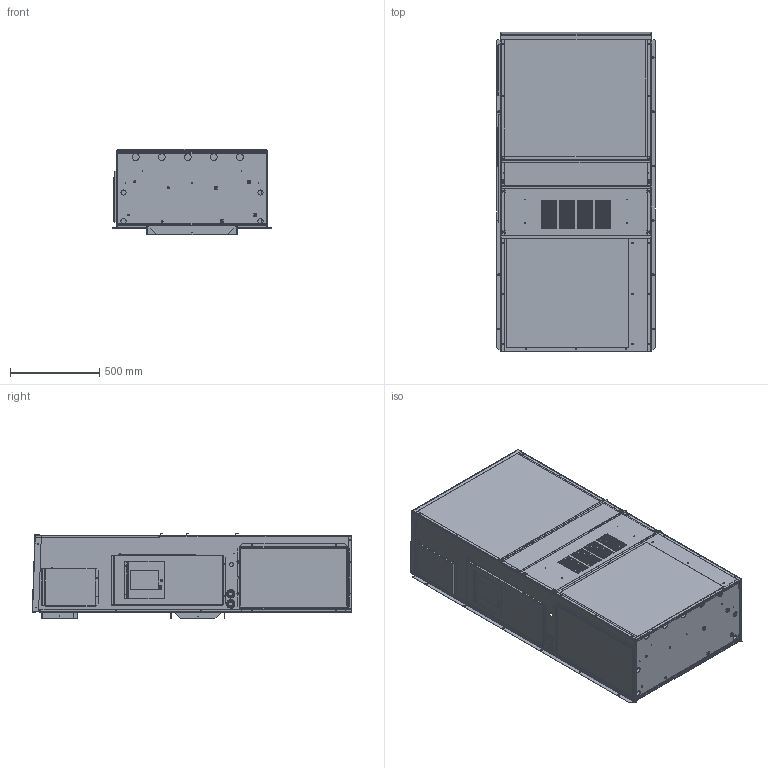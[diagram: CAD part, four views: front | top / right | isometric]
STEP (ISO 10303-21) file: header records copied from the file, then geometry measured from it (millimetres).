
FILE_DESCRIPTION (( 'STEP AP203' ), '1' );
FILE_NAME ('STEP_300.STEP', '2016-06-20T13:54:19', ( '' ), ( '' ), 'SwSTEP 2.0', 'SolidWorks 2016', '' );
FILE_SCHEMA (( 'CONFIG_CONTROL_DESIGN' ));
Products named in the file (1): STEP_300
Bounding box: 888.56 x 1792.17 x 479.01 mm (x, y, z)
Volume: 17367396.4 mm3; surface area: 12848923.6 mm2
Topology: 60 solids, 60 shells, 3258 faces, 8691 edges, 5636 vertices
Faces by surface type: plane 1324, cylinder 1114, bspline 708, cone 60, torus 52
Entity records: 126049 total; most frequent: CARTESIAN_POINT 45539, ORIENTED_EDGE 17358, DIRECTION 16141, EDGE_CURVE 8679, AXIS2_PLACEMENT_3D 5857, VERTEX_POINT 5636, LINE 4427, VECTOR 4427
